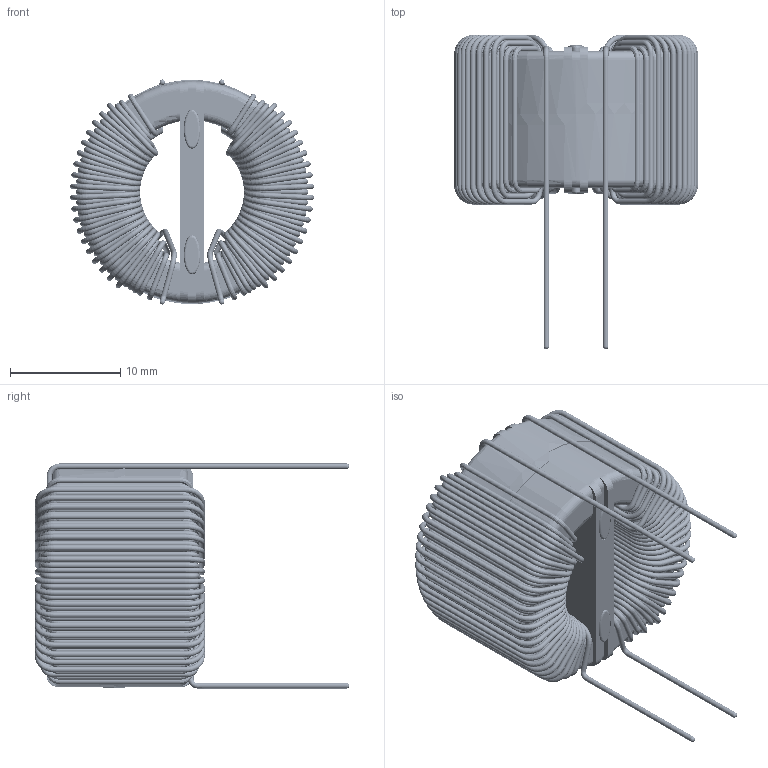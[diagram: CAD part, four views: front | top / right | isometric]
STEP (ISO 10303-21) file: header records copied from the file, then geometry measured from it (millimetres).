
FILE_DESCRIPTION (( 'STEP AP203' ), '1' );
FILE_NAME ('GN-H-303U-2A.STEP', '2020-08-05T13:49:02', ( 'Windows User' ), ( '' ), 'SwSTEP 2.0', 'SolidWorks 2015', '' );
FILE_SCHEMA (( 'CONFIG_CONTROL_DESIGN' ));
Length unit declared in the file: inch
Products named in the file (4): GN-H-303U-2A - FRAME; GN-H-303U-2A - COIL; GN-H-303U-2A - CORE; GN-H-303U-2A
Assembly tree (3 placements, depth 2):
  GN-H-303U-2A
    GN-H-303U-2A - CORE
    GN-H-303U-2A - COIL
    GN-H-303U-2A - FRAME
Bounding box: 22.08 x 28.45 x 20.4 mm (x, y, z)
Volume: 3583.7 mm3; surface area: 9186 mm2
Topology: 12 solids, 12 shells, 2340 faces, 7222 edges, 4746 vertices
Faces by surface type: cylinder 1148, torus 888, bspline 220, plane 84
Entity records: 104576 total; most frequent: CARTESIAN_POINT 37346, DIRECTION 15484, ORIENTED_EDGE 14444, EDGE_CURVE 7222, AXIS2_PLACEMENT_3D 7076, CIRCLE 4950, VERTEX_POINT 4746, EDGE_LOOP 2430
